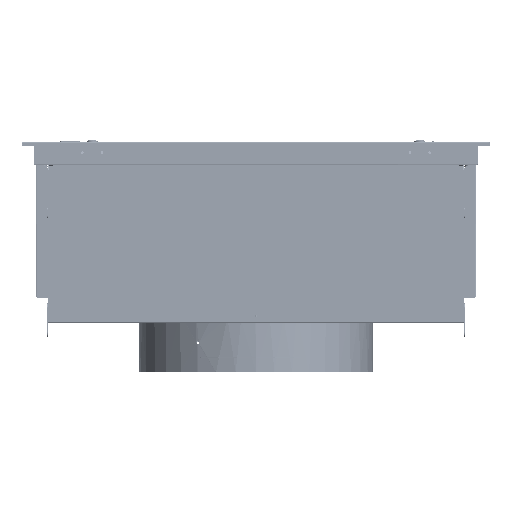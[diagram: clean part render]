
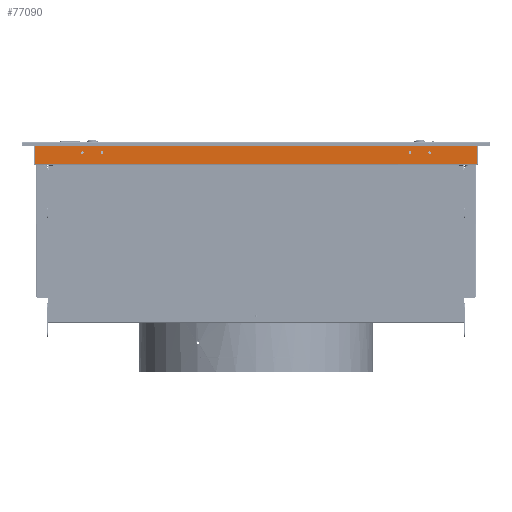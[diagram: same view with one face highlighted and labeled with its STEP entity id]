
A CAD part, left-side view. The second image highlights one B-rep face of the part: STEP entity #77090.
In plain terms, the highlighted planar face has unit normal (-1, 0, 0).
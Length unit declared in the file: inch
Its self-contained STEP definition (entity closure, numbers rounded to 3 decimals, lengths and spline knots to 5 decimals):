
#682 = CIRCLE ( 'NONE', #51213, 0.07 ) ;
#6700 = CARTESIAN_POINT ( 'NONE',  ( -23.268, -11.233, -1.137 ) ) ;
#6743 = EDGE_CURVE ( 'NONE', #91934, #90386, #125500, .T. ) ;
#6891 = EDGE_CURVE ( 'NONE', #48227, #112399, #107550, .T. ) ;
#8037 = CARTESIAN_POINT ( 'NONE',  ( -23.268, -8.8141, -0.6245 ) ) ;
#8286 = LINE ( 'NONE', #48470, #108543 ) ;
#11154 = CARTESIAN_POINT ( 'NONE',  ( -23.268, 7.8141, -0.5545 ) ) ;
#11240 = EDGE_CURVE ( 'NONE', #116368, #43359, #30304, .T. ) ;
#11500 = FACE_BOUND ( 'NONE', #85701, .T. ) ;
#12817 = FACE_OUTER_BOUND ( 'NONE', #67847, .T. ) ;
#13404 = CARTESIAN_POINT ( 'NONE',  ( -23.268, 8.8141, -0.5545 ) ) ;
#17149 = CARTESIAN_POINT ( 'NONE',  ( -23.268, -8.8141, -0.5545 ) ) ;
#20148 = EDGE_CURVE ( 'NONE', #102698, #101945, #8286, .T. ) ;
#20169 = LINE ( 'NONE', #90086, #56225 ) ;
#20853 = DIRECTION ( 'NONE',  ( -1., 0., 0. ) ) ;
#23716 = DIRECTION ( 'NONE',  ( 0., 0., 1. ) ) ;
#23998 = FACE_BOUND ( 'NONE', #54035, .T. ) ;
#24626 = DIRECTION ( 'NONE',  ( -1., 0., 0. ) ) ;
#25284 = DIRECTION ( 'NONE',  ( 0., 0., 1. ) ) ;
#25774 = VERTEX_POINT ( 'NONE', #50430 ) ;
#26385 = CARTESIAN_POINT ( 'NONE',  ( -23.268, -7.8141, -0.4845 ) ) ;
#26419 = DIRECTION ( 'NONE',  ( 0., 0., 1. ) ) ;
#27667 = DIRECTION ( 'NONE',  ( -1., 0., 0. ) ) ;
#29897 = VERTEX_POINT ( 'NONE', #8037 ) ;
#30304 = CIRCLE ( 'NONE', #104074, 0.07 ) ;
#30902 = VERTEX_POINT ( 'NONE', #73554 ) ;
#32352 = VERTEX_POINT ( 'NONE', #52943 ) ;
#36937 = VECTOR ( 'NONE', #47475, 39.37008 ) ;
#39551 = CARTESIAN_POINT ( 'NONE',  ( -23.268, -14.33242, -1.137 ) ) ;
#40570 = DIRECTION ( 'NONE',  ( 0., 0., -1. ) ) ;
#43359 = VERTEX_POINT ( 'NONE', #109830 ) ;
#44943 = CIRCLE ( 'NONE', #108156, 0.07 ) ;
#45398 = EDGE_CURVE ( 'NONE', #25774, #29897, #82520, .T. ) ;
#47005 = VECTOR ( 'NONE', #104958, 39.37008 ) ;
#47475 = DIRECTION ( 'NONE',  ( 0., 1., 0. ) ) ;
#48227 = VERTEX_POINT ( 'NONE', #6700 ) ;
#48470 = CARTESIAN_POINT ( 'NONE',  ( -23.268, -14.33242, -0.066 ) ) ;
#48841 = CARTESIAN_POINT ( 'NONE',  ( -23.268, -11.233, -0.066 ) ) ;
#50096 = DIRECTION ( 'NONE',  ( -1., 0., 0. ) ) ;
#50430 = CARTESIAN_POINT ( 'NONE',  ( -23.268, -8.8141, -0.4845 ) ) ;
#51213 = AXIS2_PLACEMENT_3D ( 'NONE', #121103, #20853, #112521 ) ;
#51359 = DIRECTION ( 'NONE',  ( 0., 0., 1. ) ) ;
#52374 = CARTESIAN_POINT ( 'NONE',  ( -23.268, -14.33242, 0. ) ) ;
#52943 = CARTESIAN_POINT ( 'NONE',  ( -23.268, 8.8141, -0.6245 ) ) ;
#53488 = AXIS2_PLACEMENT_3D ( 'NONE', #13404, #105714, #54286 ) ;
#54035 = EDGE_LOOP ( 'NONE', ( #116649, #92281 ) ) ;
#54286 = DIRECTION ( 'NONE',  ( 0., 0., 1. ) ) ;
#54694 = CARTESIAN_POINT ( 'NONE',  ( -23.268, 7.8141, -0.5545 ) ) ;
#56225 = VECTOR ( 'NONE', #40570, 39.37008 ) ;
#62988 = EDGE_CURVE ( 'NONE', #29897, #25774, #105263, .T. ) ;
#63147 = AXIS2_PLACEMENT_3D ( 'NONE', #17149, #27667, #96316 ) ;
#63851 = EDGE_CURVE ( 'NONE', #30902, #32352, #112453, .T. ) ;
#64038 = ORIENTED_EDGE ( 'NONE', *, *, #6891, .F. ) ;
#64210 = DIRECTION ( 'NONE',  ( 0., 0., -1. ) ) ;
#65858 = CARTESIAN_POINT ( 'NONE',  ( -23.268, -7.8141, -0.6245 ) ) ;
#65952 = CARTESIAN_POINT ( 'NONE',  ( -23.268, -11.233, 0. ) ) ;
#66971 = DIRECTION ( 'NONE',  ( 0., 0., 1. ) ) ;
#67847 = EDGE_LOOP ( 'NONE', ( #120119, #87594, #71737, #64038 ) ) ;
#68920 = DIRECTION ( 'NONE',  ( 0., 1., 0. ) ) ;
#69106 = CARTESIAN_POINT ( 'NONE',  ( -23.268, 11.233, -1.137 ) ) ;
#70668 = AXIS2_PLACEMENT_3D ( 'NONE', #95687, #104310, #26419 ) ;
#71737 = ORIENTED_EDGE ( 'NONE', *, *, #122739, .T. ) ;
#73554 = CARTESIAN_POINT ( 'NONE',  ( -23.268, 8.8141, -0.4845 ) ) ;
#75380 = CARTESIAN_POINT ( 'NONE',  ( -23.268, 8.8141, -0.5545 ) ) ;
#75551 = CARTESIAN_POINT ( 'NONE',  ( -23.268, -8.8141, -0.5545 ) ) ;
#75730 = ORIENTED_EDGE ( 'NONE', *, *, #45398, .F. ) ;
#76184 = DIRECTION ( 'NONE',  ( -1., 0., 0. ) ) ;
#76637 = CIRCLE ( 'NONE', #53488, 0.07 ) ;
#77090 = ADVANCED_FACE ( 'NONE', ( #84034, #114373, #23998, #11500, #12817 ), #122961, .F. ) ;
#78262 = AXIS2_PLACEMENT_3D ( 'NONE', #75551, #76184, #66971 ) ;
#81224 = ORIENTED_EDGE ( 'NONE', *, *, #118016, .F. ) ;
#82520 = CIRCLE ( 'NONE', #78262, 0.07 ) ;
#83060 = DIRECTION ( 'NONE',  ( -1., 0., 0. ) ) ;
#84034 = FACE_BOUND ( 'NONE', #113825, .T. ) ;
#85701 = EDGE_LOOP ( 'NONE', ( #98260, #81224 ) ) ;
#87594 = ORIENTED_EDGE ( 'NONE', *, *, #20148, .T. ) ;
#90086 = CARTESIAN_POINT ( 'NONE',  ( -23.268, 11.233, 0. ) ) ;
#90386 = VERTEX_POINT ( 'NONE', #65858 ) ;
#91934 = VERTEX_POINT ( 'NONE', #26385 ) ;
#92281 = ORIENTED_EDGE ( 'NONE', *, *, #95466, .F. ) ;
#92605 = DIRECTION ( 'NONE',  ( 1., 0., 0. ) ) ;
#95466 = EDGE_CURVE ( 'NONE', #43359, #116368, #44943, .T. ) ;
#95498 = ORIENTED_EDGE ( 'NONE', *, *, #62988, .F. ) ;
#95587 = AXIS2_PLACEMENT_3D ( 'NONE', #75380, #24626, #25284 ) ;
#95687 = CARTESIAN_POINT ( 'NONE',  ( -23.268, -7.8141, -0.5545 ) ) ;
#96316 = DIRECTION ( 'NONE',  ( 0., 0., 1. ) ) ;
#98260 = ORIENTED_EDGE ( 'NONE', *, *, #63851, .F. ) ;
#101945 = VERTEX_POINT ( 'NONE', #103857 ) ;
#102698 = VERTEX_POINT ( 'NONE', #48841 ) ;
#103857 = CARTESIAN_POINT ( 'NONE',  ( -23.268, 11.233, -0.066 ) ) ;
#104074 = AXIS2_PLACEMENT_3D ( 'NONE', #54694, #83060, #23716 ) ;
#104310 = DIRECTION ( 'NONE',  ( -1., 0., 0. ) ) ;
#104958 = DIRECTION ( 'NONE',  ( 0., 0., 1. ) ) ;
#105263 = CIRCLE ( 'NONE', #63147, 0.07 ) ;
#105568 = LINE ( 'NONE', #65952, #47005 ) ;
#105714 = DIRECTION ( 'NONE',  ( -1., 0., 0. ) ) ;
#107550 = LINE ( 'NONE', #39551, #36937 ) ;
#108156 = AXIS2_PLACEMENT_3D ( 'NONE', #11154, #50096, #51359 ) ;
#108543 = VECTOR ( 'NONE', #68920, 39.37008 ) ;
#109830 = CARTESIAN_POINT ( 'NONE',  ( -23.268, 7.8141, -0.6245 ) ) ;
#110052 = AXIS2_PLACEMENT_3D ( 'NONE', #52374, #92605, #64210 ) ;
#112399 = VERTEX_POINT ( 'NONE', #69106 ) ;
#112453 = CIRCLE ( 'NONE', #95587, 0.07 ) ;
#112521 = DIRECTION ( 'NONE',  ( 0., 0., 1. ) ) ;
#113506 = CARTESIAN_POINT ( 'NONE',  ( -23.268, 7.8141, -0.4845 ) ) ;
#113825 = EDGE_LOOP ( 'NONE', ( #126728, #117012 ) ) ;
#114373 = FACE_BOUND ( 'NONE', #124781, .T. ) ;
#116368 = VERTEX_POINT ( 'NONE', #113506 ) ;
#116649 = ORIENTED_EDGE ( 'NONE', *, *, #11240, .F. ) ;
#117012 = ORIENTED_EDGE ( 'NONE', *, *, #117630, .F. ) ;
#117630 = EDGE_CURVE ( 'NONE', #90386, #91934, #682, .T. ) ;
#118016 = EDGE_CURVE ( 'NONE', #32352, #30902, #76637, .T. ) ;
#120119 = ORIENTED_EDGE ( 'NONE', *, *, #129875, .T. ) ;
#121103 = CARTESIAN_POINT ( 'NONE',  ( -23.268, -7.8141, -0.5545 ) ) ;
#122739 = EDGE_CURVE ( 'NONE', #101945, #112399, #20169, .T. ) ;
#122961 = PLANE ( 'NONE',  #110052 ) ;
#124781 = EDGE_LOOP ( 'NONE', ( #75730, #95498 ) ) ;
#125500 = CIRCLE ( 'NONE', #70668, 0.07 ) ;
#126728 = ORIENTED_EDGE ( 'NONE', *, *, #6743, .F. ) ;
#129875 = EDGE_CURVE ( 'NONE', #48227, #102698, #105568, .T. ) ;
